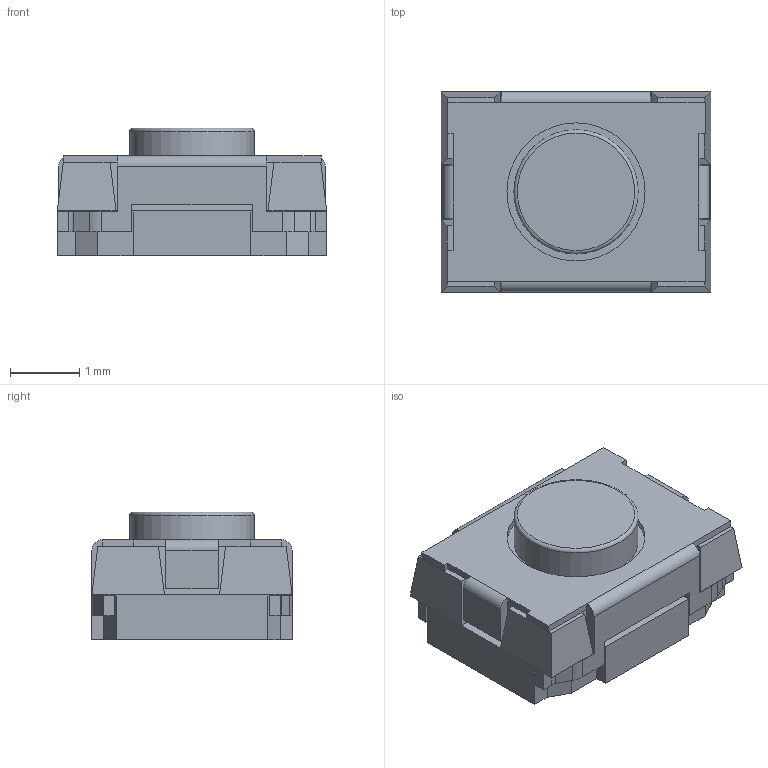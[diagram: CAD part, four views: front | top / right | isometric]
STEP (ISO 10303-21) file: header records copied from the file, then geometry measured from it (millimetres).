
FILE_DESCRIPTION(/* description */ ('STEP AP242 Edition 2','CAx-IF Rec.Pracs.---Representation and Presentation of Product Manufacturing Information (PMI)---4.0---2014-10-13','CAx-IF Rec.Pracs.---3D Tessellated Geometry---0.4---2014-09-14','2;1','CAx-IF Rec.Pracs.---User Defined Attributes---1.5---2016-08-15'),/* implementation_level */ '2;1');
FILE_NAME(/* name */ 'Assembly 1 - SW-SMD_L3.9-W3.0-P4.45~SW-SMD_L3.9-W2.9-H2.0-LS4.8~nxQB_1 (11)',/* time_stamp */ '2026-04-02T09:55:26Z',/* author */ (''),/* organization */ (''),/* preprocessor_version */ 'ST-DEVELOPER v20',/* originating_system */ 'ONSHAPE BY PTC INC, 1.212',/* authorisation */ ' ');
FILE_SCHEMA (('AP242_MANAGED_MODEL_BASED_3D_ENGINEERING_MIM_LF { 1 0 10303 442 3 1 4 }'));
Length unit declared in the file: metre
Products named in the file (1): SW-SMD_L3.9-W3.0-P4.45~SW-SMD_L3.9-W2.9-H2.0-LS4.8~nxQB_1
Bounding box: 3.9 x 2.9 x 1.85 mm (x, y, z)
Volume: 16 mm3; surface area: 60 mm2
Topology: 1 solids, 1 shells, 215 faces, 570 edges, 366 vertices
Faces by surface type: plane 179, cylinder 26, bspline 9, torus 1
Full cylindrical faces by diameter (mm): 1.8 x1, 2 x1
Entity records: 8593 total; most frequent: CARTESIAN_POINT 1784, ORIENTED_EDGE 1132, DIRECTION 1011, EDGE_CURVE 566, LINE 491, VECTOR 491, VERTEX_POINT 365, AXIS2_PLACEMENT_3D 260
